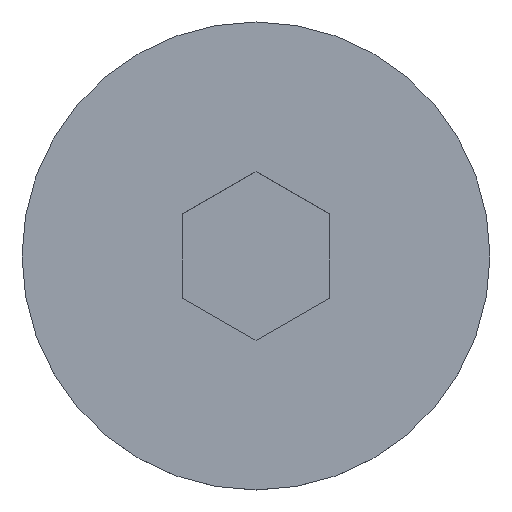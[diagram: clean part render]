
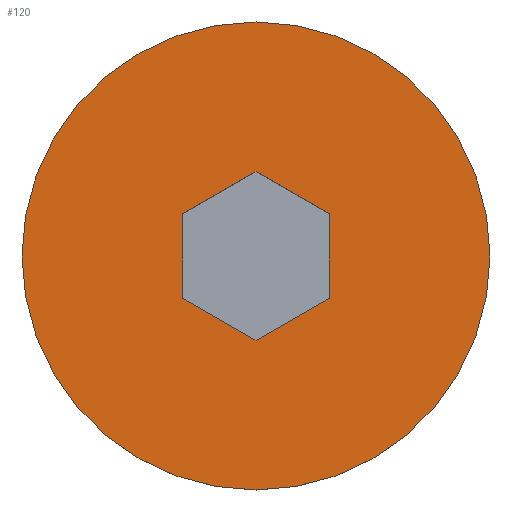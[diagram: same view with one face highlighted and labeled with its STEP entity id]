
A CAD part, top view. The second image highlights one B-rep face of the part: STEP entity #120.
In plain terms, the highlighted planar face has unit normal (0, 0, 1).
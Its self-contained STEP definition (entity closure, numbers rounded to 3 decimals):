
#1 = CARTESIAN_POINT ( 'NONE',  ( 3., -1.732, 5.22 ) ) ;
#2 = CARTESIAN_POINT ( 'NONE',  ( 0., -3.464, 5.22 ) ) ;
#4 = ORIENTED_EDGE ( 'NONE', *, *, #141, .F. ) ;
#18 = CARTESIAN_POINT ( 'NONE',  ( -3., -1.732, 5.22 ) ) ;
#19 = CARTESIAN_POINT ( 'NONE',  ( 0., 3.464, 5.22 ) ) ;
#26 = EDGE_CURVE ( 'NONE', #207, #227, #313, .T. ) ;
#36 = DIRECTION ( 'NONE',  ( -0.866, -0.5, 0. ) ) ;
#45 = VECTOR ( 'NONE', #36, 1000. ) ;
#52 = AXIS2_PLACEMENT_3D ( 'NONE', #259, #194, #441 ) ;
#60 = CARTESIAN_POINT ( 'NONE',  ( -3., -1.732, 5.22 ) ) ;
#61 = DIRECTION ( 'NONE',  ( 1., 0., 0. ) ) ;
#66 = EDGE_LOOP ( 'NONE', ( #397, #148 ) ) ;
#67 = VERTEX_POINT ( 'NONE', #263 ) ;
#83 = DIRECTION ( 'NONE',  ( 0.866, -0.5, 0. ) ) ;
#90 = LINE ( 'NONE', #291, #311 ) ;
#94 = VERTEX_POINT ( 'NONE', #19 ) ;
#95 = ORIENTED_EDGE ( 'NONE', *, *, #26, .F. ) ;
#97 = EDGE_CURVE ( 'NONE', #115, #419, #246, .T. ) ;
#105 = EDGE_CURVE ( 'NONE', #213, #207, #90, .T. ) ;
#115 = VERTEX_POINT ( 'NONE', #161 ) ;
#120 = ADVANCED_FACE ( 'NONE', ( #380, #134 ), #267, .T. ) ;
#131 = LINE ( 'NONE', #343, #310 ) ;
#132 = DIRECTION ( 'NONE',  ( 0.866, 0.5, 0. ) ) ;
#133 = AXIS2_PLACEMENT_3D ( 'NONE', #377, #411, #61 ) ;
#134 = FACE_OUTER_BOUND ( 'NONE', #66, .T. ) ;
#141 = EDGE_CURVE ( 'NONE', #314, #67, #182, .T. ) ;
#142 = CARTESIAN_POINT ( 'NONE',  ( 3., -1.732, 5.22 ) ) ;
#143 = DIRECTION ( 'NONE',  ( -1., 0., 0. ) ) ;
#148 = ORIENTED_EDGE ( 'NONE', *, *, #270, .F. ) ;
#161 = CARTESIAN_POINT ( 'NONE',  ( -9.61, 0., 5.22 ) ) ;
#165 = ORIENTED_EDGE ( 'NONE', *, *, #105, .F. ) ;
#179 = CARTESIAN_POINT ( 'NONE',  ( 0., 0., 5.22 ) ) ;
#182 = LINE ( 'NONE', #1, #342 ) ;
#194 = DIRECTION ( 'NONE',  ( 0., 0., -1. ) ) ;
#207 = VERTEX_POINT ( 'NONE', #60 ) ;
#210 = LINE ( 'NONE', #240, #45 ) ;
#213 = VERTEX_POINT ( 'NONE', #448 ) ;
#218 = VECTOR ( 'NONE', #348, 1000. ) ;
#220 = CARTESIAN_POINT ( 'NONE',  ( 9.61, 0., 5.22 ) ) ;
#223 = ORIENTED_EDGE ( 'NONE', *, *, #386, .F. ) ;
#225 = EDGE_CURVE ( 'NONE', #227, #314, #131, .T. ) ;
#227 = VERTEX_POINT ( 'NONE', #2 ) ;
#228 = VECTOR ( 'NONE', #83, 1000. ) ;
#231 = EDGE_LOOP ( 'NONE', ( #447, #4, #249, #95, #165, #223 ) ) ;
#240 = CARTESIAN_POINT ( 'NONE',  ( 0., 3.464, 5.22 ) ) ;
#246 = CIRCLE ( 'NONE', #52, 9.61 ) ;
#247 = DIRECTION ( 'NONE',  ( 0., 0., -1. ) ) ;
#248 = EDGE_CURVE ( 'NONE', #67, #94, #254, .T. ) ;
#249 = ORIENTED_EDGE ( 'NONE', *, *, #225, .F. ) ;
#254 = LINE ( 'NONE', #410, #218 ) ;
#259 = CARTESIAN_POINT ( 'NONE',  ( 0., 0., 5.22 ) ) ;
#263 = CARTESIAN_POINT ( 'NONE',  ( 3., 1.732, 5.22 ) ) ;
#267 = PLANE ( 'NONE',  #133 ) ;
#270 = EDGE_CURVE ( 'NONE', #419, #115, #325, .T. ) ;
#291 = CARTESIAN_POINT ( 'NONE',  ( -3., 1.732, 5.22 ) ) ;
#306 = DIRECTION ( 'NONE',  ( 0., 1., 0. ) ) ;
#310 = VECTOR ( 'NONE', #132, 1000. ) ;
#311 = VECTOR ( 'NONE', #403, 1000. ) ;
#313 = LINE ( 'NONE', #18, #228 ) ;
#314 = VERTEX_POINT ( 'NONE', #142 ) ;
#325 = CIRCLE ( 'NONE', #353, 9.61 ) ;
#342 = VECTOR ( 'NONE', #306, 1000. ) ;
#343 = CARTESIAN_POINT ( 'NONE',  ( 0., -3.464, 5.22 ) ) ;
#348 = DIRECTION ( 'NONE',  ( -0.866, 0.5, 0. ) ) ;
#353 = AXIS2_PLACEMENT_3D ( 'NONE', #179, #247, #143 ) ;
#377 = CARTESIAN_POINT ( 'NONE',  ( -9.61, 0., 5.22 ) ) ;
#380 = FACE_BOUND ( 'NONE', #231, .T. ) ;
#386 = EDGE_CURVE ( 'NONE', #94, #213, #210, .T. ) ;
#397 = ORIENTED_EDGE ( 'NONE', *, *, #97, .F. ) ;
#403 = DIRECTION ( 'NONE',  ( 0., -1., 0. ) ) ;
#410 = CARTESIAN_POINT ( 'NONE',  ( 3., 1.732, 5.22 ) ) ;
#411 = DIRECTION ( 'NONE',  ( 0., 0., 1. ) ) ;
#419 = VERTEX_POINT ( 'NONE', #220 ) ;
#441 = DIRECTION ( 'NONE',  ( -1., 0., 0. ) ) ;
#447 = ORIENTED_EDGE ( 'NONE', *, *, #248, .F. ) ;
#448 = CARTESIAN_POINT ( 'NONE',  ( -3., 1.732, 5.22 ) ) ;
